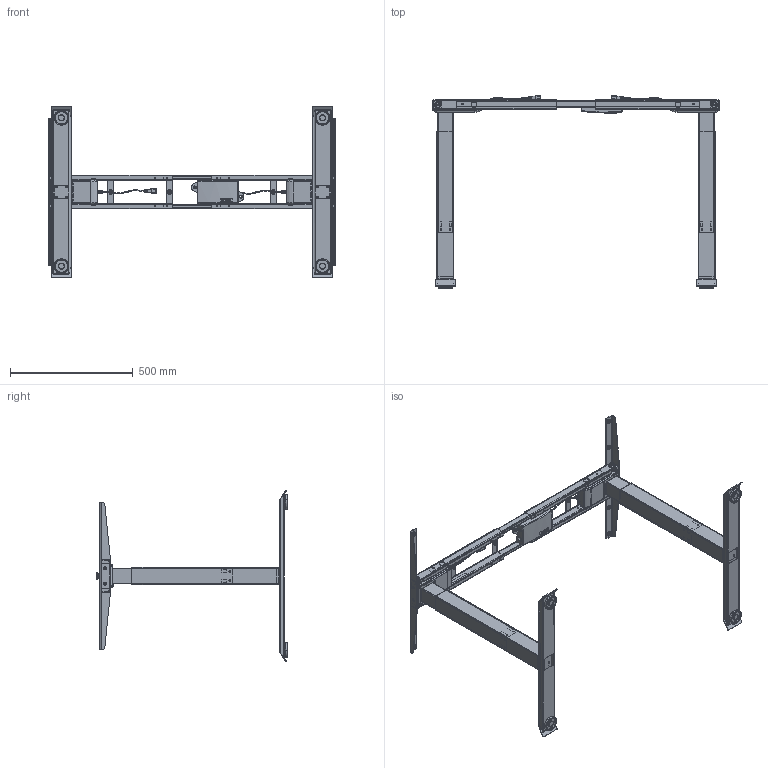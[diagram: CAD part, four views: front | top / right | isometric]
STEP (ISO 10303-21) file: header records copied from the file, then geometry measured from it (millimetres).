
FILE_DESCRIPTION(('FreeCAD Model'),'2;1');
FILE_NAME('Open CASCADE Shape Model','2022-05-24T10:14:13',('Author'),( ''),'Open CASCADE STEP processor 7.4','FreeCAD','Unknown');
FILE_SCHEMA(('AUTOMOTIVE_DESIGN { 1 0 10303 214 1 1 1 1 }'));
Length unit declared in the file: millimetre
Products named in the file (17): 2M2S_TQD_frame; Top_Frame_Right; Top_Frame_Left; Beam_001; Bracket_right; hexagon_socket_countersunk_head_screws_gb_GB_FASTENER_SCREWS_HSCHS_
M6X12-N; Rubber_grommets; Rubber_grommets?; Control_Box; Lifting_Column_L_001; Lifting_Column_L_002; Lifting_Column_L_003; Cable_left; Lifting_Column_L_004; Foot_Left; Foot_Left_stand1; Foot_Right
Assembly tree (49 placements, depth 2):
  2M2S_TQD_frame
    Top_Frame_Right
    Top_Frame_Left
    Beam_001  x2
    Bracket_right  x2
    hexagon_socket_countersunk_head_screws_gb_GB_FASTENER_SCREWS_HSCHS_
M6X12-N  x4
    Rubber_grommets  x11
    Rubber_grommets?  x11
    Control_Box
    Lifting_Column_L_001  x2
    Lifting_Column_L_002  x2
    Lifting_Column_L_003  x2
    Cable_left  x2
    Lifting_Column_L_004  x2
    Foot_Left
    Foot_Left_stand1  x4
    Foot_Right
Bounding box: 1166.48 x 781.29 x 700 mm (x, y, z)
Volume: 3202074.7 mm3; surface area: 2966913.4 mm2
Topology: 54 solids, 56 shells, 2402 faces, 12167 edges, 32478 vertices
Faces by surface type: plane 1260, cylinder 849, bspline 237, cone 48, revolution 8
Entity records: 225279 total; most frequent: CARTESIAN_POINT 80258, DIRECTION 21735, LINE 13045, VECTOR 13045, ORIENTED_EDGE 8280, PCURVE 8280, DEFINITIONAL_REPRESENTATION 8280, GEOMETRIC_CURVE_SET 5644
